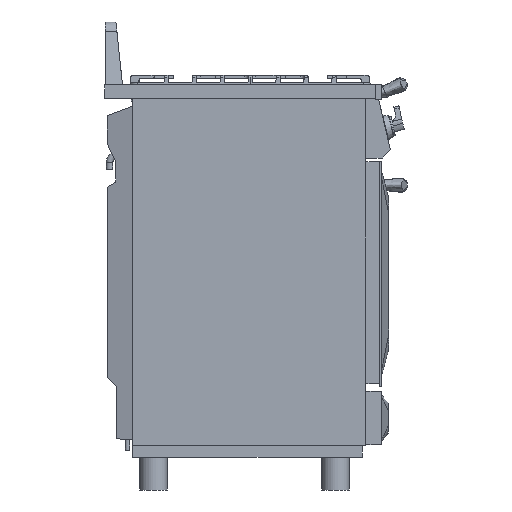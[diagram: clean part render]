
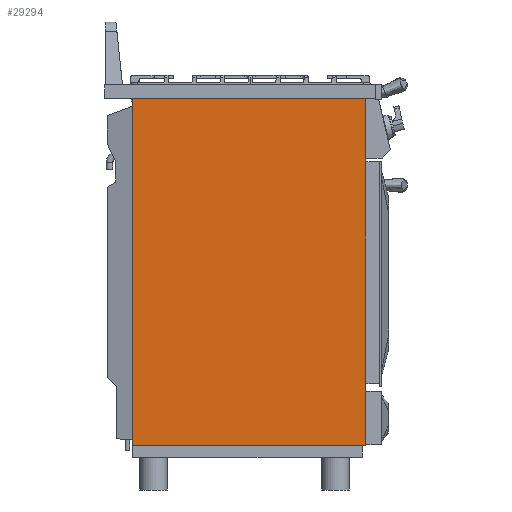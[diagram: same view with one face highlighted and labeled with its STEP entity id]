
A CAD part, left-side view. The second image highlights one B-rep face of the part: STEP entity #29294.
In plain terms, the highlighted planar face has unit normal (-1, 0, 0).
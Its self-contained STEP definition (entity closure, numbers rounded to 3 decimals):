
#1695=PLANE('',#31052);
#2863=LINE('',#48626,#5034);
#2991=LINE('',#51150,#5162);
#3169=LINE('',#54973,#5340);
#3174=LINE('',#54981,#5345);
#5034=VECTOR('',#34609,1000.);
#5162=VECTOR('',#34891,1000.);
#5340=VECTOR('',#35355,1000.);
#5345=VECTOR('',#35362,1000.);
#10601=ORIENTED_EDGE('',*,*,#15388,.F.);
#10602=ORIENTED_EDGE('',*,*,#16007,.T.);
#10603=ORIENTED_EDGE('',*,*,#15661,.F.);
#10604=ORIENTED_EDGE('',*,*,#16012,.F.);
#15388=EDGE_CURVE('',#18666,#18667,#2863,.T.);
#15661=EDGE_CURVE('',#18849,#18851,#2991,.T.);
#16007=EDGE_CURVE('',#18666,#18851,#3169,.T.);
#16012=EDGE_CURVE('',#18667,#18849,#3174,.T.);
#18666=VERTEX_POINT('',#48625);
#18667=VERTEX_POINT('',#48627);
#18849=VERTEX_POINT('',#51148);
#18851=VERTEX_POINT('',#51151);
#21658=EDGE_LOOP('',(#10601,#10602,#10603,#10604));
#23194=FACE_BOUND('',#21658,.T.);
#29294=ADVANCED_FACE('',(#23194),#1695,.T.);
#31052=AXIS2_PLACEMENT_3D('',#54983,#35364,#35365);
#34609=DIRECTION('',(0.,1.,0.));
#34891=DIRECTION('',(0.,-1.,0.));
#35355=DIRECTION('',(0.,0.,1.));
#35362=DIRECTION('',(0.,0.,1.));
#35364=DIRECTION('',(-1.,0.,0.));
#35365=DIRECTION('',(0.,-1.,0.));
#48625=CARTESIAN_POINT('',(-931.85,-259.562,-305.25));
#48626=CARTESIAN_POINT('',(-931.85,-259.562,-305.25));
#48627=CARTESIAN_POINT('',(-931.85,239.688,-305.25));
#51148=CARTESIAN_POINT('',(-931.85,239.688,438.157));
#51150=CARTESIAN_POINT('',(-931.85,239.688,438.157));
#51151=CARTESIAN_POINT('',(-931.85,-259.562,438.157));
#54973=CARTESIAN_POINT('',(-931.85,-259.562,-305.25));
#54981=CARTESIAN_POINT('',(-931.85,239.688,-305.25));
#54983=CARTESIAN_POINT('',(-931.85,0.,0.));
